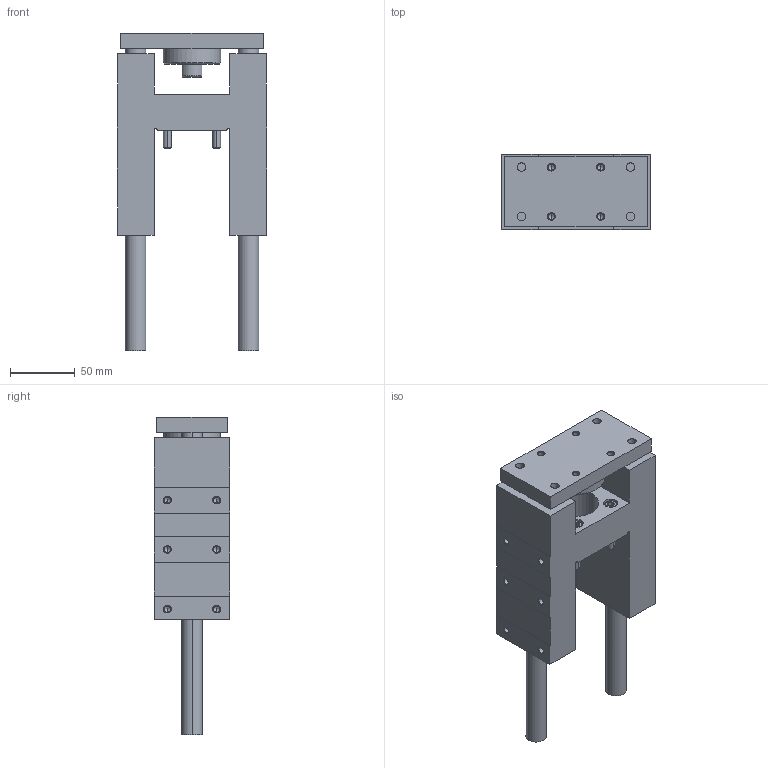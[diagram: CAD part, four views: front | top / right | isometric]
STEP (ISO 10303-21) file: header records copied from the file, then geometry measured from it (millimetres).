
FILE_DESCRIPTION (( 'STEP AP203' ), '1' );
FILE_NAME ('GB40-75.STEP', '2020-04-24T11:17:05', ( '' ), ( '' ), 'SwSTEP 2.0', 'SolidWorks 2019', '' );
FILE_SCHEMA (( 'CONFIG_CONTROL_DESIGN' ));
Length unit declared in the file: millimetre
Products named in the file (1): GB40-75
Bounding box: 115 x 58 x 245 mm (x, y, z)
Volume: 641769.3 mm3; surface area: 130012.7 mm2
Topology: 6 solids, 6 shells, 357 faces, 802 edges, 456 vertices
Faces by surface type: cone 142, plane 113, cylinder 102
Entity records: 10283 total; most frequent: CARTESIAN_POINT 2222, DIRECTION 1796, ORIENTED_EDGE 1532, EDGE_CURVE 766, AXIS2_PLACEMENT_3D 700, VERTEX_POINT 456, EDGE_LOOP 422, VECTOR 396
